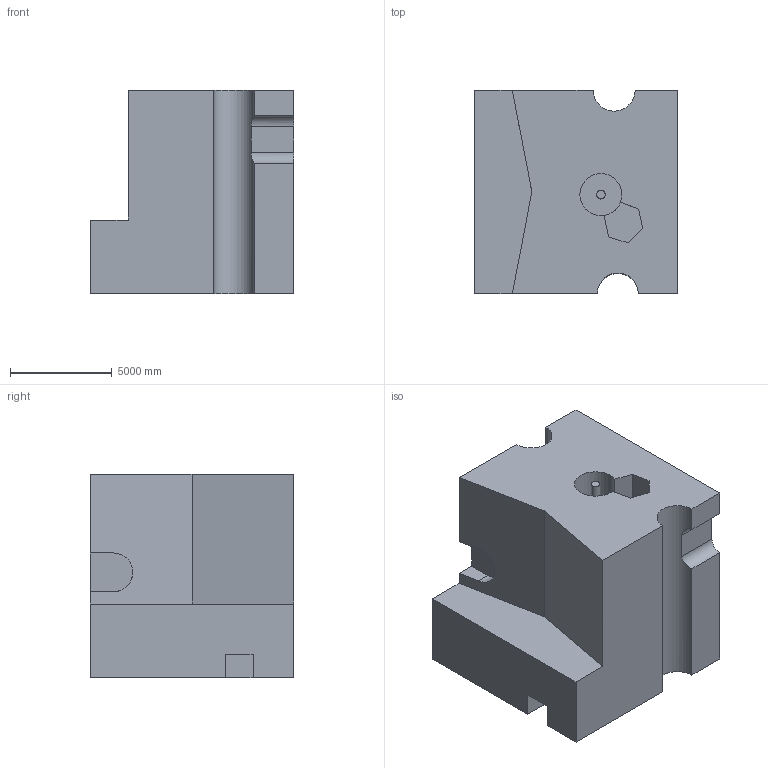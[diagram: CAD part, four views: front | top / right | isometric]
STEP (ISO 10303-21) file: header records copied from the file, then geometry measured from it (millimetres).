
FILE_DESCRIPTION (( 'STEP AP203' ), '1' );
FILE_NAME ('755.STEP', '2022-07-29T12:58:49', ( 'user' ), ( '' ), 'SwSTEP 2.0', 'SolidWorks 2021', '' );
FILE_SCHEMA (( 'CONFIG_CONTROL_DESIGN' ));
Length unit declared in the file: centimetre
Products named in the file (1): 755
Bounding box: 10000 x 10000 x 10000 mm (x, y, z)
Volume: 789892505435.6 mm3; surface area: 634960796.3 mm2
Topology: 1 solids, 1 shells, 37 faces, 99 edges, 66 vertices
Faces by surface type: plane 28, cylinder 9
Entity records: 1329 total; most frequent: CARTESIAN_POINT 312, ORIENTED_EDGE 198, DIRECTION 189, EDGE_CURVE 99, VECTOR 79, LINE 79, VERTEX_POINT 66, AXIS2_PLACEMENT_3D 55
